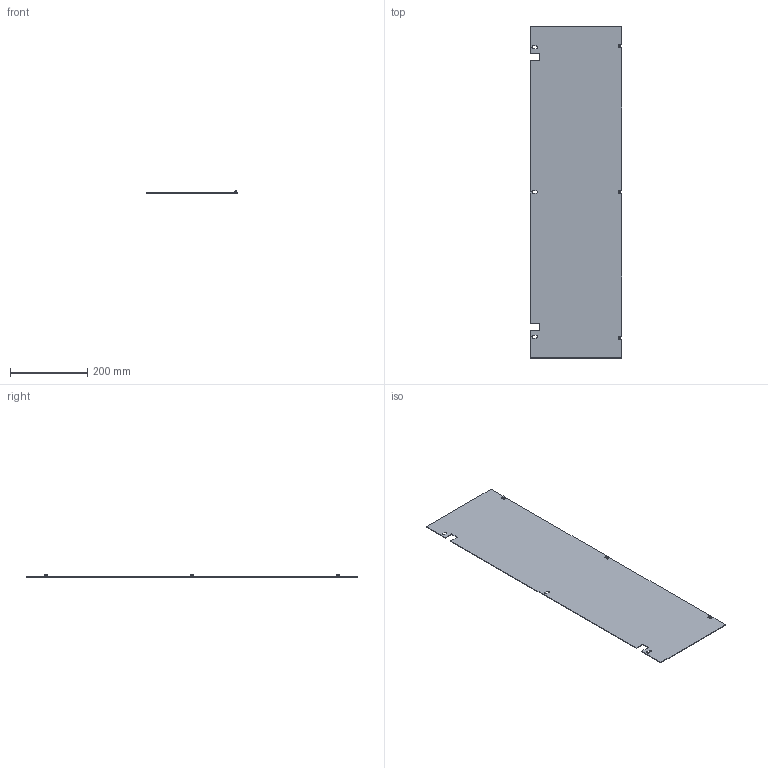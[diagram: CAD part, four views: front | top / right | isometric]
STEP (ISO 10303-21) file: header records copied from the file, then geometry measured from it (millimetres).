
FILE_DESCRIPTION (( 'STEP AP203' ), '1' );
FILE_NAME ('EUSV-025090.STEP', '2015-04-22T09:50:29', ( 'Admin' ), ( '' ), 'SwSTEP 2.0', 'SolidWorks 2014', '' );
FILE_SCHEMA (( 'CONFIG_CONTROL_DESIGN' ));
Length unit declared in the file: millimetre
Products named in the file (1): EUSV-025090
Bounding box: 238 x 860 x 5.95 mm (x, y, z)
Volume: 305124.7 mm3; surface area: 410591.2 mm2
Topology: 1 solids, 1 shells, 80 faces, 222 edges, 144 vertices
Faces by surface type: plane 59, cylinder 21
Entity records: 2621 total; most frequent: CARTESIAN_POINT 447, ORIENTED_EDGE 444, DIRECTION 426, EDGE_CURVE 222, VECTOR 180, LINE 180, VERTEX_POINT 144, AXIS2_PLACEMENT_3D 123
